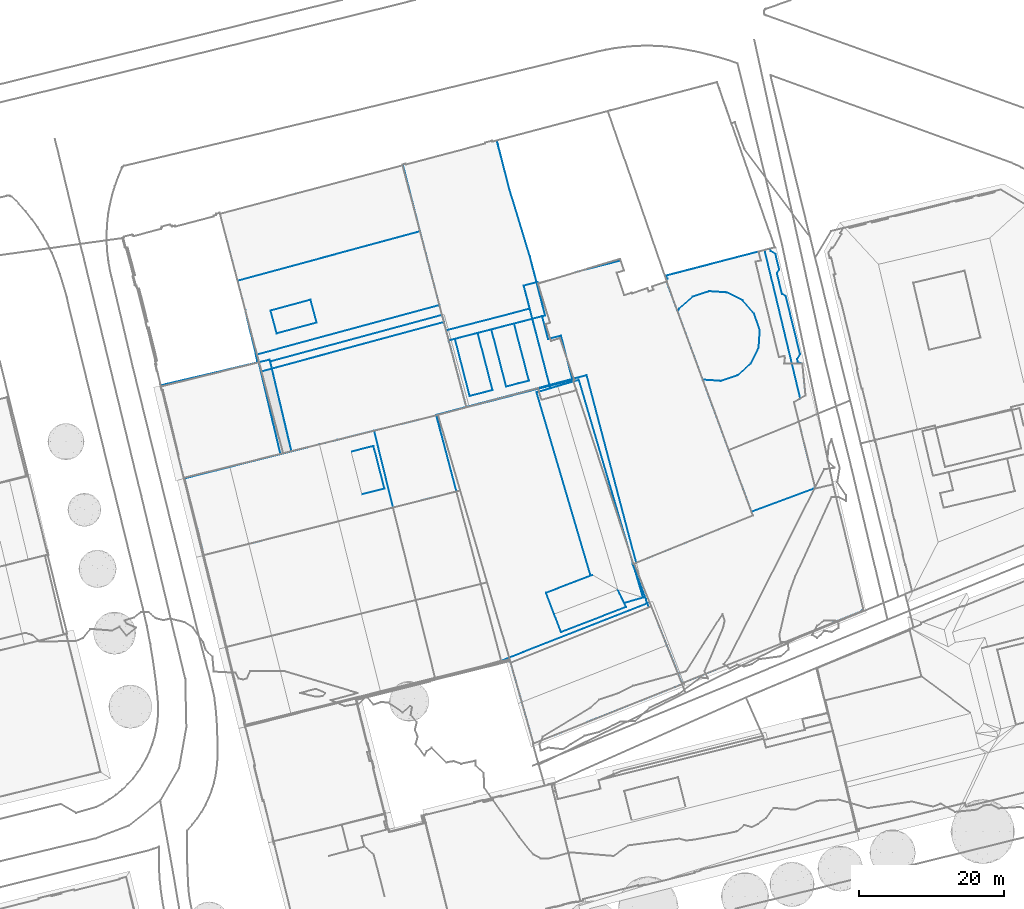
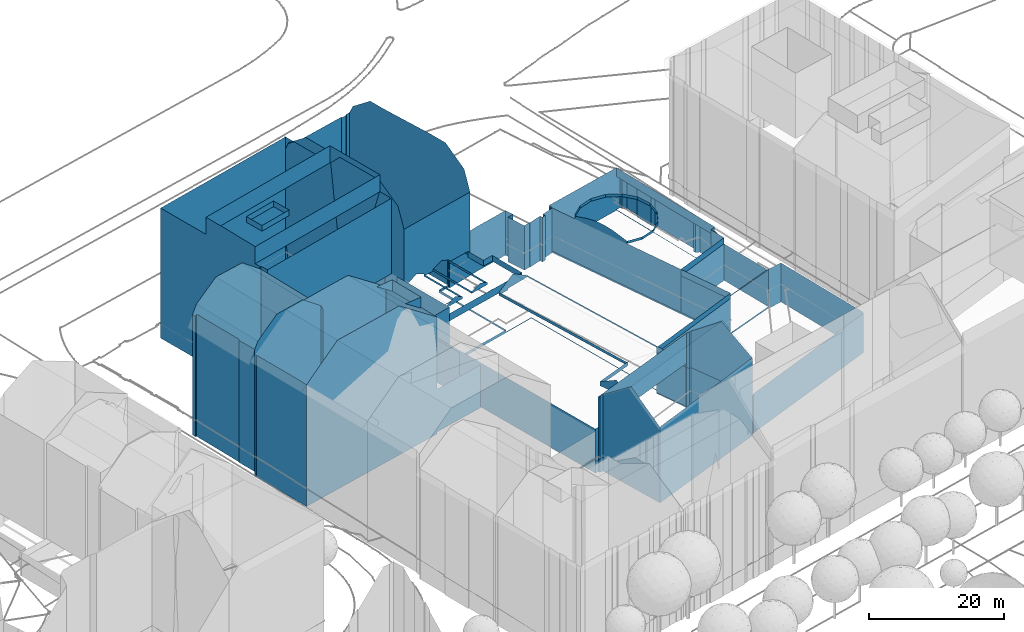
# Not in any storey, part 54 of 494: 6 walls.
"""IFC2X3 model written with IfcOpenShell, lengths in metres."""

from ifc_helpers import new_model, si_unit, frame, origin_with_axes, place, context, subcontext, project, faceted_brep, element, save


model = new_model("IFC2X3")

# Units and contexts
model_context = context("Model", 3, precision=1e-05, world=origin_with_axes())
body_context = subcontext(model_context, "Body", "Model", "MODEL_VIEW")
ifc_project = project(units=[si_unit("AREAUNIT", "SQUARE_METRE"), si_unit("LENGTHUNIT", "METRE")], contexts=[model_context])

# Walls
wall_1_placement = place(None, frame((138.3257320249, 434.5047160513, 538.8886), z_axis=(0.0, 0.0, 1.0), x_axis=(1.0, 0.0, 0.0)))
element("IfcWall", 1, at=wall_1_placement, Name="Wall 0", context=body_context, shape_type="Brep", body=[
    faceted_brep([(16.518000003, -9.4560999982, 23.2408), (12.825000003, -10.3867000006, 0.0), (16.518000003, -9.4560999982, 0.0), (13.5280000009, 3.1963, 23.2408), (13.5280000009, 3.1963, 0.0), (9.8220000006, 2.3213, 26.2215), (9.8220000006, 2.3213, 0.0), (12.825000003, -10.3867000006, 26.2215), (7.6590000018, -11.6904000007, 26.2215), (4.6380000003, 1.0956999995, 26.2215), (4.6380000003, 1.0956999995, 0.0), (3.8420000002, -12.6532999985, 23.2408), (7.6590000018, -11.6904000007, 0.0), (0.807, 0.1914000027, 23.2408), (0.807, 0.1914000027, 0.0), (0.1640000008, -0.6611000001, 0.0), (0.1640000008, -0.6611000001, 21.6909), (0.0, 0.0, 21.6769), (0.0, 0.0, 0.0), (0.3480000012, -0.615199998, 22.0489), (0.3480000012, -0.615199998, 0.0), (2.4940000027, -9.5020000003, 22.1329), (2.4940000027, -9.5020000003, 0.0), (2.4230000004, -9.5194999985, 0.0), (2.4231000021, -9.5196000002, 21.9949), (3.2200000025, -12.7372999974, 22.0639), (3.2370000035, -12.8046999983, 0.0), (3.2370000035, -12.8046999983, 22.0639), (3.8420000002, -12.6532999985, 0.0)], [[[0, 1, 2]], [[3, 0, 4]], [[5, 3, 6]], [[7, 8, 1]], [[9, 5, 10]], [[8, 11, 12]], [[13, 10, 14]], [[15, 16, 17]], [[17, 18, 15]], [[16, 15, 19]], [[19, 15, 20]], [[19, 20, 21]], [[22, 23, 21]], [[21, 23, 24]], [[25, 24, 26]], [[26, 24, 23]], [[26, 27, 25]], [[11, 27, 28]], [[17, 14, 18]], [[14, 17, 13]], [[7, 1, 0]], [[0, 2, 4]], [[3, 4, 6]], [[8, 12, 1]], [[5, 6, 10]], [[11, 28, 12]], [[9, 10, 13]], [[21, 20, 22]], [[27, 26, 28]]]),
])
wall_2_placement = place(None, frame((146.5207320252, 458.1258160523, 539.1716), z_axis=(0.0, 0.0, 1.0), x_axis=(1.0, 0.0, 0.0)))
element("IfcWall", 2, at=wall_2_placement, Name="Wall 0", context=body_context, shape_type="Brep", body=[
    faceted_brep([(7.818, -16.4530999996, 27.5443), (6.9640000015, -13.3027999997, 27.5443), (7.818, -16.4530999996, 26.5324), (13.3110000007, -14.9638999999, 27.5443), (13.3110000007, -14.9638999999, 26.5324), (12.4570000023, -11.8145000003, 27.5443), (12.4570000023, -11.8145000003, 26.5324), (6.9640000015, -13.3027999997, 26.5324), (27.5290000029, -2.4023999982, 26.5324), (30.2070000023, -12.5498000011, 26.5324), (27.5430000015, -2.3984999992, 23.4627), (27.5290000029, -2.4023999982, 0.041), (28.3380000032, -5.4688000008, 0.0), (30.2070000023, -12.5498000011, 23.4627), (2.4310000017, -9.2050999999, 26.5324), (2.4310000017, -9.2050999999, 23.4627), (3.4940000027, -13.2324000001, 26.5324), (3.495000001, -13.2324000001, 23.4627), (4.9450000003, -19.3993999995, 26.5324), (4.887000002, -19.0351999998, 26.5324), (4.9450000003, -19.3993999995, 23.4627), (25.1030000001, 6.7899999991, 23.4627), (25.1620000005, 6.8055999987, 23.4627), (25.1030000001, 6.7899999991, 0.0), (25.137000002, 6.6611000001, 23.4627), (25.137000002, 6.6611000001, 0.0), (0.0, 0.0, 23.4628), (0.0, 0.0, 0.0), (3.4940000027, -13.2324000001, 0.041), (3.495000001, -13.2324000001, 0.0), (4.9539999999, -19.4560999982, 23.4627), (4.9539999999, -19.4560999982, 0.0), (4.887000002, -19.0351999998, 0.0), (5.189000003, -20.4589999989, 23.4627), (5.189000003, -20.4589999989, 0.0), (5.3330000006, -20.4248000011, 22.9578), (5.3910000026, -20.4120999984, 23.4627), (5.3330000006, -20.4248000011, 0.0), (5.7270000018, -21.6865000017, 23.4627), (5.3910000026, -20.4111000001, 22.8278), (5.7270000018, -21.6865000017, 22.7538), (30.8230000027, -14.8828000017, 9.859), (7.1530000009, -21.2987999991, 19.5231), (7.1530000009, -21.2987999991, 9.859), (30.8230000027, -14.8828000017, 23.4627), (30.0260000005, -27.6796999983, 9.859), (9.8399999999, -32.6708999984, 9.859), (30.0260000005, -27.6796999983, -0.206), (33.9230000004, -26.629900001, 9.859), (33.9230000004, -26.629900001, -0.206), (6.9210000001, -20.317400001, 0.0001), (30.5660000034, -13.9092000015, 0.0), (6.9210000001, -20.317400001, -0.2059), (8.3230000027, -33.0771999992, 22.9578), (8.3230000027, -33.0771999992, -0.283), (5.3330000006, -20.4248000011, -0.283), (9.8440000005, -32.6875, 19.5231), (9.8440000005, -32.6875, -0.283), (6.8610000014, -20.0645000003, 0.0), (6.8610000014, -20.0645000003, -0.283), (9.8399999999, -32.6708999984, -0.206), (5.3910000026, -20.4120999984, 0.0), (4.0580000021, -15.6338, 26.5324), (4.0580000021, -15.6338, 23.4627), (4.0580000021, -15.6338, 0.0), (30.2070000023, -12.5498000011, 0.0409), (30.5660000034, -13.9092000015, -0.206), (25.3410000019, 6.1123000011, 0.0), (25.1620000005, 6.8055999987, 0.0), (25.3410000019, 6.1123000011, 23.4627), (26.2660000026, 2.5370999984, 0.0), (26.2660000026, 2.5370999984, 23.4627)], [[[0, 1, 2]], [[3, 0, 4]], [[5, 3, 6]], [[1, 5, 7]], [[8, 9, 10]], [[11, 10, 12]], [[13, 12, 10]], [[14, 8, 15]], [[16, 14, 17]], [[18, 19, 20]], [[9, 20, 13]], [[21, 22, 23]], [[24, 21, 25]], [[26, 24, 27]], [[28, 17, 15]], [[29, 28, 27]], [[15, 26, 27]], [[15, 27, 28]], [[30, 20, 31]], [[31, 20, 32]], [[19, 32, 20]], [[33, 30, 34]], [[35, 36, 33]], [[35, 34, 37]], [[38, 39, 40]], [[41, 42, 43]], [[42, 41, 44]], [[44, 40, 42]], [[40, 44, 38]], [[45, 46, 47]], [[48, 45, 49]], [[50, 51, 52]], [[53, 37, 54]], [[37, 55, 54]], [[56, 54, 57]], [[36, 35, 39]], [[58, 52, 59]], [[52, 58, 50]], [[59, 52, 57]], [[42, 56, 46]], [[46, 57, 60]], [[57, 46, 56]], [[43, 42, 46]], [[55, 37, 61]], [[61, 58, 59]], [[61, 59, 55]], [[62, 16, 63]], [[63, 28, 64]], [[19, 63, 32]], [[65, 51, 12]], [[65, 13, 41]], [[41, 51, 65]], [[41, 49, 51]], [[49, 41, 48]], [[51, 49, 66]], [[41, 13, 44]], [[67, 68, 69]], [[67, 69, 70]], [[71, 10, 11]], [[71, 11, 70]], [[1, 7, 2]], [[0, 2, 4]], [[3, 4, 6]], [[5, 6, 7]], [[9, 13, 10]], [[65, 12, 13]], [[8, 10, 15]], [[14, 15, 17]], [[18, 20, 9]], [[22, 68, 23]], [[21, 23, 25]], [[24, 25, 27]], [[28, 29, 64]], [[30, 31, 34]], [[33, 34, 35]], [[36, 39, 38]], [[46, 60, 47]], [[45, 47, 49]], [[51, 66, 52]], [[35, 37, 53]], [[53, 54, 56]], [[52, 60, 57]], [[16, 17, 63]], [[17, 28, 63]], [[62, 63, 19]], [[63, 64, 32]], [[68, 22, 69]], [[69, 71, 70]]]),
])
wall_3_placement = place(None, frame((171.6827320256, 464.931416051, 544.4901), z_axis=(0.0, 0.0, 1.0), x_axis=(1.0, 0.0, 0.0)))
element("IfcWall", 3, at=wall_3_placement, Name="Wall 0", context=body_context, shape_type="Brep", body=[
    faceted_brep([(25.3049999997, -29.0145999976, -5.7695), (32.1319999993, -54.8358999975, -5.7696), (25.3049999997, -29.0145999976, -5.9495), (4.6040000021, -34.4872999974, 2.0357), (8.75, -33.3915999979, 2.0357), (8.75, -33.3915999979, -5.4106), (4.6040000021, -34.4872999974, -5.9495), (20.193, -30.3662, -5.7695), (20.193, -30.3662, -5.4106), (14.1380000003, -68.1405999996, 2.0357), (13.5439999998, -68.297799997, 2.0357), (14.1380000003, -68.1405999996, -5.9496), (33.4499999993, -59.8192999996, 2.0357), (33.6090000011, -60.4188999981, 2.0357), (33.4499999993, -59.8192999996, -5.9496), (14.7910000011, -68.3524999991, 7.8321), (14.2369999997, -68.4891999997, 7.7761), (14.7910000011, -68.3524999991, 4.3825), (14.7910000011, -68.3524999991, 0.9328), (14.2369999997, -68.4891999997, 4.3265), (14.7910000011, -68.3524999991, -5.9656), (14.2369999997, -68.4891999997, -5.9656), (34.2039999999, -60.8250999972, 7.8971), (34.2039999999, -60.8250999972, 0.9648), (33.8800000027, -60.9549999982, 7.8991), (34.2039999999, -60.8250999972, -2.5009), (34.2039999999, -60.8250999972, -5.9656), (33.8800000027, -60.9549999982, -5.9656), (33.6680000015, -60.3954999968, 7.4562), (33.6680000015, -60.3954999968, -5.9656), (19.699000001, -58.9579999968, 2.0357), (19.699000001, -58.9579999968, 2.7386), (25.8440000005, -56.5965999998, 2.5666), (26.1090000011, -56.495099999, 2.7386), (25.8440000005, -56.5965999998, 2.0357), (30.7530000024, -60.8993999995, 2.7386), (21.7699999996, -64.3495999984, 2.7386), (30.7530000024, -60.8993999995, 2.0357), (30.4890000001, -60.3671000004, 2.5666), (29.568, -58.5086999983, 4.4095), (30.4890000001, -60.3671000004, 2.0357), (24.2270000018, -29.6512999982, 2.5667), (31.7090000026, -55.0077999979, 2.2927), (24.2270000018, -29.6512999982, 2.2927), (31.9940000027, -55.9725999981, 2.5666), (33.0670000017, -59.6063999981, 2.0357), (31.9940000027, -55.9725999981, 2.0357), (33.0670000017, -59.6063999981, 2.5666), (18.4000000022, -31.3719999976, 2.5667), (21.7800000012, -23.5692999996, 3.3656), (23.3570000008, -29.6620999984, 3.3656), (21.7800000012, -23.5692999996, 2.2927), (19.9979999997, -24.0301999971, 3.3656), (19.9979999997, -24.0301999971, 2.2927), (19.1810000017, -20.9041999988, 3.3656), (19.1810000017, -20.9041999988, 2.2927), (5.9640000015, -22.8387999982, -5.2746), (17.4739999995, -19.8592999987, -5.2746), (5.9640000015, -22.8387999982, -5.4105), (14.6960000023, -3.5155999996, 20.167), (17.4869999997, -12.6708000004, 20.167), (14.6960000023, -3.5155999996, -5.2745), (14.0340000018, -0.9569999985, 20.167), (14.0340000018, -0.9569999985, -5.2745), (14.0250000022, -0.9237999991, 20.167), (14.0250000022, -0.9237999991, -5.2745), (12.2550000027, 3.2442000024, -5.2745), (12.2550000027, 3.2442000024, 15.6715), (12.2910000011, 3.1182000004, -5.2745), (11.3139999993, 3.0020000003, -5.2745), (11.3139999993, 3.0020000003, 15.6675), (11.3489999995, 2.8692000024, -5.2745), (11.3489999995, 2.8692000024, 15.9664), (0.4519999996, -0.0185000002, 16.1084), (0.4519999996, -0.0185000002, -5.2745), (0.4180999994, 0.1114000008, -5.2745), (0.4180000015, 0.1114000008, 15.8165), (0.0, 0.0, 5.2745), (0.1770000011, 0.0469000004, 15.8195), (0.0, 0.0, 0.0), (0.0, 0.0001000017, -5.2745), (19.5910000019, -20.7987999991, 13.8566), (15.3159999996, -21.9051999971, 3.7316), (13.8949999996, -22.2723999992, 4.4195), (8.9189999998, -23.5604999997, 4.5115), (12.194000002, -22.7137999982, 3.7316), (6.3320000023, -24.2303999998, 13.8566), (19.5910000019, -20.7987999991, 2.2927), (15.3159999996, -21.9051999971, 3.3656), (10.313000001, -23.2010999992, 3.7316), (7.1720000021, -24.0135999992, 3.7316), (6.3320000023, -24.2303999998, 3.3656), (12.194000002, -22.7137999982, 3.3656), (10.313000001, -23.2010999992, 3.3656), (7.1720000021, -24.0135999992, 3.3656), (18.6300000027, -16.4188999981, 2.2927), (24.2190000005, -14.7264999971, 2.2927), (18.6300000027, -16.4188999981, -5.7695), (18.5610000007, -16.1912999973, 2.2927), (18.5610000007, -16.1912999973, -5.7695), (34.3350000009, -16.8084999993, 2.2927), (36.3110000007, -16.1248999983, 2.2927), (34.3350000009, -16.8084999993, -5.7695), (34.4930000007, -17.2625999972, 2.2927), (34.4930000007, -17.2625999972, -5.7695), (33.8560000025, -17.4881999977, 2.2927), (33.8560000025, -17.4881999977, -5.7695), (33.6999999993, -17.0350999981, 2.2927), (33.6999999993, -17.0350999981, -5.7695), (31.5340000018, -17.7567999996, 2.2927), (31.5340000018, -17.7567999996, -5.7695), (31.5030000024, -17.6629999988, 2.2927), (31.5030000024, -17.6629999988, -5.7695), (30.4830000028, -18.0086999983, 2.2927), (30.4830000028, -18.0086999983, -5.7695), (29.4389999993, -14.9199000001, 2.2927), (29.4389999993, -14.9199000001, -5.7695), (30.4539999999, -14.6063999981, 2.2927), (30.4539999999, -14.6063999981, -5.7695), (29.9849999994, -13.2342999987, 2.2927), (29.9849999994, -13.2342999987, -5.7695), (24.2190000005, -14.7264999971, -5.7695), (16.6520000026, -16.6854999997, -5.7695), (16.6520000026, -16.6854999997, -5.2746), (18.4090000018, -16.2303999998, -5.2746), (18.4090000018, -16.2303999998, 2.2927), (12.3470000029, -31.0594999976, 3.7316), (9.2070000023, -31.8729999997, 3.3656), (9.2070000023, -31.8729999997, 3.7316), (17.3500000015, -29.7645999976, 3.7316), (17.3500000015, -29.7645999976, 3.3656), (14.2280000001, -30.5722000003, 3.3656), (14.2280000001, -30.5722000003, 3.7316), (20.2210000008, -30.4725999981, 2.2927), (23.3570000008, -29.6620999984, 2.2927), (8.762000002, -33.4373999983, 3.3656), (8.762000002, -33.4373999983, 2.0357), (20.2210000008, -30.4725999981, 2.0357), (17.4739999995, -19.8592999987, -5.4106), (20.3080000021, -30.8084999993, 2.2927), (20.3080000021, -30.8084999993, 2.0357), (31.6400000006, -55.0361000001, -5.9496), (31.6400000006, -55.0361000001, 2.6116), (10.7540000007, -57.7459999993, 2.0357), (10.7540000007, -57.7459999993, -5.9495), (7.3910000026, -45.0252999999, 2.0357), (7.3910000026, -45.0252999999, -5.9495), (38.4739999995, -71.5223999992, -5.9656), (38.4739999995, -71.5223999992, 8.0841), (37.4580000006, -71.9287, -5.9656), (37.4580000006, -71.9287, 8.0801), (17.9940000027, -79.7010999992, 7.721), (17.9940000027, -79.7010999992, -5.9657), (36.2930000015, -66.0594999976, 12.0707), (36.3260000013, -66.1415999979, 12.1367), (36.3260000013, -66.1415999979, -5.9656), (36.2930000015, -66.0594999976, -5.9656), (16.4210000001, -74.1268999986, -5.9656), (16.3780000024, -73.9764999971, -5.9656), (16.4210000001, -74.1268999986, 12.0287), (16.3780000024, -73.9764999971, 12.1367), (14.1380000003, -68.1405999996, 7.5092), (14.1190000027, -68.0711999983, 7.4562), (14.1190000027, -68.0711999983, 2.0357), (14.1190000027, -68.0711999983, -5.9656), (14.1190000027, -68.0711999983, -5.9496), (33.6090000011, -60.4188999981, -5.9495), (21.7699999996, -64.3495999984, 2.0357), (20.818, -61.870099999, 2.0357), (20.818, -61.870099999, 4.4095), (48.182, -48.302699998, 2.2927), (48.182, -48.302699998, -5.7696), (32.1319999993, -54.8358999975, -5.9496), (31.7090000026, -55.0077999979, 2.5666), (21.3060000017, -30.5135999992, 4.4095), (18.4000000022, -31.3719999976, 2.0357), (19.2770000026, -19.5848999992, 17.3803), (18.2939999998, -15.7879999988, 20.167), (19.2770000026, -19.5848999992, 2.2927), (17.4869999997, -12.6708000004, -5.2746), (12.9360000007, 3.2901000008, 15.9454), (12.2910000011, 3.1182000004, 15.9564), (12.6440000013, 3.2120000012, -5.2745), (12.9360000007, 3.2901000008, -5.2745), (0.1790000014, -0.6932999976, 17.3803), (0.0, 0.0001000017, 15.8225), (1.1040000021, -4.2685000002, 20.167), (3.1779999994, -12.2821999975, 20.167), (0.0, 0.0, 10.548), (0.1790000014, -0.6932999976, -5.2745), (1.1040000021, -4.2685000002, -5.2745), (3.1779999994, -12.2821999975, -5.2745), (13.1000000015, 2.6513999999, -5.2745), (13.0840000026, 2.7138999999, -5.2745), (13.1000000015, 2.6513999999, 17.3803), (37.0789999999, -18.2079999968, 2.2927), (36.3110000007, -16.1248999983, -5.7695), (37.0789999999, -18.2079999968, -5.7695), (12.3470000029, -31.0594999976, 3.3656), (10.9530000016, -31.4208000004, 4.5115), (15.9299999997, -30.1327999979, 3.3656), (15.9299999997, -30.1327999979, 4.4195), (5.0109999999, -19.2254999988, 20.167), (5.0109999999, -19.2254999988, -5.2746), (6.012000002, -23.0185000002, 17.3803), (13.5439999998, -68.297799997, -5.9496)], [[[0, 1, 2]], [[3, 4, 5]], [[6, 5, 7]], [[5, 6, 3]], [[8, 7, 5]], [[0, 2, 7]], [[7, 2, 6]], [[9, 10, 11]], [[12, 13, 14]], [[15, 16, 17]], [[18, 19, 20]], [[19, 21, 20]], [[22, 23, 24]], [[25, 26, 24]], [[24, 26, 27]], [[28, 24, 29]], [[29, 24, 27]], [[30, 31, 32]], [[33, 32, 31]], [[32, 34, 30]], [[35, 36, 37]], [[38, 39, 35]], [[38, 37, 40]], [[37, 38, 35]], [[41, 42, 43]], [[44, 45, 46]], [[47, 38, 45]], [[32, 48, 34]], [[49, 50, 51]], [[52, 49, 53]], [[54, 52, 55]], [[56, 57, 58]], [[59, 60, 61]], [[62, 59, 63]], [[64, 62, 65]], [[66, 67, 68]], [[69, 70, 67]], [[67, 66, 69]], [[71, 72, 69]], [[72, 70, 69]], [[73, 72, 74]], [[72, 71, 74]], [[75, 76, 73]], [[73, 74, 75]], [[77, 78, 79]], [[80, 79, 78]], [[78, 75, 80]], [[81, 82, 54]], [[82, 81, 83]], [[84, 85, 83]], [[83, 81, 86]], [[87, 54, 55]], [[54, 87, 81]], [[54, 82, 88]], [[89, 85, 84]], [[90, 86, 91]], [[86, 90, 84]], [[89, 92, 85]], [[92, 89, 93]], [[91, 94, 90]], [[84, 83, 86]], [[95, 96, 97]], [[98, 95, 99]], [[100, 101, 102]], [[103, 100, 104]], [[105, 103, 106]], [[107, 105, 108]], [[109, 107, 110]], [[111, 109, 112]], [[113, 111, 114]], [[115, 113, 116]], [[117, 115, 118]], [[119, 117, 120]], [[96, 119, 121]], [[122, 123, 124]], [[124, 98, 99]], [[98, 124, 125]], [[124, 99, 122]], [[126, 93, 89]], [[127, 128, 94]], [[129, 130, 82]], [[131, 132, 92]], [[50, 133, 134]], [[133, 50, 135]], [[133, 136, 137]], [[136, 133, 135]], [[138, 7, 8]], [[123, 122, 138]], [[123, 138, 57]], [[139, 133, 140]], [[141, 142, 46]], [[46, 142, 44]], [[12, 14, 46]], [[143, 144, 10]], [[145, 146, 143]], [[3, 6, 145]], [[147, 148, 149]], [[149, 148, 150]], [[149, 151, 152]], [[151, 149, 150]], [[153, 154, 23]], [[22, 153, 23]], [[154, 148, 23]], [[148, 147, 155]], [[148, 155, 156]], [[25, 156, 26]], [[156, 25, 148]], [[148, 25, 23]], [[152, 151, 157]], [[157, 18, 158]], [[20, 158, 18]], [[18, 157, 151]], [[159, 160, 15]], [[159, 15, 17]], [[151, 17, 18]], [[151, 159, 17]], [[19, 16, 161]], [[19, 161, 162]], [[19, 163, 9]], [[163, 19, 162]], [[19, 9, 21]], [[9, 11, 21]], [[21, 11, 164]], [[164, 11, 165]], [[165, 166, 164]], [[162, 28, 163]], [[163, 28, 13]], [[13, 28, 166]], [[164, 166, 29]], [[167, 36, 168]], [[168, 36, 169]], [[168, 31, 30]], [[31, 168, 169]], [[170, 1, 171]], [[172, 1, 141]], [[170, 42, 1]], [[173, 142, 42]], [[141, 42, 142]], [[42, 141, 1]], [[174, 139, 48]], [[140, 175, 48]], [[48, 139, 140]], [[43, 139, 174]], [[43, 174, 41]], [[176, 81, 177]], [[177, 81, 60]], [[125, 60, 178]], [[60, 125, 179]], [[60, 81, 178]], [[87, 178, 81]], [[179, 125, 124]], [[180, 68, 181]], [[182, 68, 180]], [[182, 180, 183]], [[184, 185, 186]], [[187, 186, 188]], [[188, 186, 185]], [[187, 188, 77]], [[79, 80, 189]], [[77, 79, 190]], [[190, 191, 187]], [[190, 79, 189]], [[190, 187, 77]], [[192, 193, 180]], [[65, 192, 180]], [[193, 183, 180]], [[180, 194, 64]], [[64, 65, 180]], [[101, 195, 196]], [[171, 197, 170]], [[127, 198, 199]], [[199, 198, 126]], [[128, 127, 199]], [[130, 129, 200]], [[200, 129, 201]], [[132, 131, 200]], [[132, 200, 201]], [[91, 86, 187]], [[135, 91, 4]], [[4, 136, 135]], [[5, 4, 91]], [[91, 56, 5]], [[202, 187, 86]], [[187, 191, 91]], [[58, 5, 56]], [[203, 91, 191]], [[91, 203, 56]], [[86, 204, 202]], [[1, 172, 2]], [[10, 205, 11]], [[13, 166, 14]], [[16, 18, 17]], [[16, 19, 18]], [[23, 25, 24]], [[36, 167, 37]], [[173, 42, 41]], [[47, 45, 44]], [[38, 40, 45]], [[48, 175, 34]], [[50, 134, 51]], [[49, 51, 53]], [[52, 53, 55]], [[57, 138, 58]], [[60, 179, 61]], [[59, 61, 63]], [[62, 63, 65]], [[68, 67, 181]], [[185, 78, 188]], [[77, 188, 78]], [[76, 75, 78]], [[96, 121, 97]], [[95, 97, 99]], [[101, 196, 102]], [[100, 102, 104]], [[103, 104, 106]], [[105, 106, 108]], [[107, 108, 110]], [[109, 110, 112]], [[111, 112, 114]], [[113, 114, 116]], [[115, 116, 118]], [[117, 118, 120]], [[119, 120, 121]], [[198, 93, 126]], [[128, 90, 94]], [[130, 88, 82]], [[132, 85, 92]], [[122, 7, 138]], [[133, 137, 140]], [[14, 141, 46]], [[144, 205, 10]], [[146, 144, 143]], [[6, 146, 145]], [[28, 29, 166]], [[195, 197, 196]], [[197, 195, 170]]]),
])
wall_4_placement = place(None, frame((207.923732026, 449.1404160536, 539.0145), z_axis=(0.0, 0.0, 1.0), x_axis=(1.0, 0.0, 0.0)))
element("IfcWall", 4, at=wall_4_placement, Name="Wall 0", context=body_context, shape_type="Brep", body=[
    faceted_brep([(12.1040000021, -4.7275000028, 8.2422), (12.8819999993, -7.0273000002, 7.7193), (12.1040000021, -4.7275000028, 7.7193), (10.504999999, -2.8993999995, 8.2422), (10.504999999, -2.8993999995, 7.7233), (8.3289999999, -1.8232000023, 8.2423), (8.3289999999, -1.8232000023, 7.7323), (5.9059999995, -1.6621000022, 8.2423), (5.9059999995, -1.6621000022, 7.7433), (3.6060000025, -2.4384000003, 8.2423), (3.6060000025, -2.4384000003, 7.7553), (1.7789999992, -4.0381000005, 8.2423), (1.7789999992, -4.0381000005, 7.7663), (1.5820000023, -4.4345000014, 8.2423), (1.5820000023, -4.4345000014, 7.7683), (5.0930000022, -13.8408000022, 8.2422), (5.0430000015, -13.8154000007, 7.7683), (5.0930000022, -13.8408000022, 7.7683), (7.5159999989, -14.0029000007, 8.2422), (7.5159999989, -14.0029000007, 7.7573), (9.8159999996, -13.2256000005, 8.2422), (9.8159999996, -13.2256000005, 7.7453), (11.6429999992, -11.6269000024, 8.2422), (11.6429999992, -11.6269000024, 7.7333), (12.7199999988, -9.451100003, 8.2422), (12.7199999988, -9.451100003, 7.7243), (12.8819999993, -7.0273000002, 8.2422), (0.0219999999, 0.4921999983, 0.0), (0.182, 0.0527999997, 0.0), (0.182, 0.0527999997, 7.7673), (0.0219999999, 0.4921999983, 5.8255), (0.0219999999, 0.4921999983, 7.7673), (0.0219999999, 0.4921999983, 2.2968), (0.0, 0.0, 0.0), (0.0, 0.0, 7.7683), (0.1110000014, -0.3192999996, 7.7683), (0.1110000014, -0.3192999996, 0.0), (0.0700000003, -0.3340000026, 7.7683), (0.0700000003, -0.3340000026, 4.8556), (18.2659999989, -19.5996000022, 7.7163), (8.6290000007, -23.5361000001, 0.0), (18.2659999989, -19.5996000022, 0.0), (17.5980000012, -16.9101000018, 7.7143), (17.5980000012, -16.9101000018, 0.0), (13.5520000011, 4.0108000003, 7.6973), (18.4649999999, -16.4189000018, 6.0944), (13.5520000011, 4.0108000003, 6.0945), (18.75, -11.6445000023, 6.0944), (19.1909999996, -16.0078000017, 6.0944), (18.75, -11.6445000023, 0.127), (18.137000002, -11.4658000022, 6.0944), (18.137000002, -11.4658000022, 0.127), (18.0260000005, -10.9834000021, 6.0944), (18.0260000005, -10.9834000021, 0.127), (18.4240000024, -10.3213, 6.0944), (18.4240000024, -10.3213, 0.127), (16.4690000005, -2.3525000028, 6.0944), (16.4690000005, -2.3525000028, 0.127), (15.9460000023, -2.0516999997, 6.0944), (15.9460000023, -2.0516999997, 0.127), (15.2420000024, 0.8213, 6.0945), (15.2420000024, 0.8213, 0.127), (15.561999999, 1.3359999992, 6.0945), (15.561999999, 1.3359999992, 0.127), (15.0500000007, 3.4638999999, 6.0945), (15.0500000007, 3.4638999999, 0.127), (14.3790000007, 3.861399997, 6.0945), (14.3790000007, 3.861399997, 0.127), (14.2890000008, 4.2021999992, 6.0945), (14.2890000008, 4.2021999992, 0.127), (13.5520000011, 4.0108000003, 0.1269), (18.4649999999, -16.4189000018, 0.127), (13.5520000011, 4.0108000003, 0.0), (4.0920000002, -11.2373000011, 8.9492), (3.5150000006, -9.6728000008, 9.1722), (3.0140000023, -8.3144000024, 9.1572), (8.6290000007, -23.5361000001, 7.7683), (5.0430000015, -13.8154000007, 8.2422), (0.8379999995, -2.4169999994, 0.0), (2.4079999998, -6.6738000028, 8.8902), (0.8379999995, -2.4169999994, 7.7683), (0.0700000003, -0.3340000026, 0.0), (19.1909999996, -16.0078000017, 0.127), (18.4649999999, -16.4189000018, 0.0), (18.4649999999, -16.4189000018, 7.7093), (0.3940000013, 0.5888999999, 0.0), (0.3940000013, 0.5888999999, 7.7653)], [[[0, 1, 2]], [[3, 0, 4]], [[5, 3, 6]], [[7, 5, 8]], [[9, 7, 10]], [[11, 9, 12]], [[13, 11, 14]], [[15, 16, 17]], [[18, 17, 19]], [[20, 19, 21]], [[22, 21, 23]], [[24, 23, 25]], [[26, 25, 1]], [[27, 28, 29]], [[30, 29, 31]], [[32, 29, 30]], [[28, 33, 34]], [[34, 33, 35]], [[35, 33, 36]], [[37, 35, 38]], [[39, 40, 41]], [[42, 41, 43]], [[44, 45, 46]], [[47, 48, 49]], [[50, 47, 51]], [[52, 50, 53]], [[54, 52, 55]], [[56, 54, 57]], [[58, 56, 59]], [[60, 58, 61]], [[62, 60, 63]], [[64, 62, 65]], [[66, 64, 67]], [[68, 66, 69]], [[70, 71, 72]], [[16, 73, 74]], [[14, 16, 74]], [[75, 14, 74]], [[40, 76, 16]], [[16, 77, 73]], [[78, 40, 16]], [[14, 75, 79]], [[13, 14, 79]], [[14, 80, 38]], [[38, 80, 37]], [[14, 38, 78]], [[38, 81, 78]], [[14, 78, 16]], [[48, 45, 71]], [[71, 82, 48]], [[83, 71, 43]], [[45, 43, 71]], [[43, 45, 42]], [[45, 84, 42]], [[46, 32, 30]], [[32, 85, 27]], [[70, 85, 32]], [[30, 31, 86]], [[86, 44, 46]], [[46, 70, 32]], [[72, 85, 70]], [[46, 69, 70]], [[30, 86, 46]], [[26, 1, 0]], [[0, 2, 4]], [[3, 4, 6]], [[5, 6, 8]], [[7, 8, 10]], [[9, 10, 12]], [[11, 12, 14]], [[77, 16, 15]], [[15, 17, 18]], [[18, 19, 20]], [[20, 21, 22]], [[22, 23, 24]], [[24, 25, 26]], [[27, 29, 32]], [[34, 29, 28]], [[35, 81, 38]], [[35, 36, 81]], [[76, 40, 39]], [[39, 41, 42]], [[84, 45, 44]], [[48, 82, 49]], [[47, 49, 51]], [[50, 51, 53]], [[52, 53, 55]], [[54, 55, 57]], [[56, 57, 59]], [[58, 59, 61]], [[60, 61, 63]], [[62, 63, 65]], [[64, 65, 67]], [[66, 67, 69]], [[71, 83, 72]], [[68, 69, 46]]]),
])
wall_5_placement = place(None, frame((203.3227320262, 409.8953160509, 538.7355), z_axis=(0.0, 0.0, 1.0), x_axis=(1.0, 0.0, 0.0)))
element("IfcWall", 5, at=wall_5_placement, Name="Wall 0", context=body_context, shape_type="Brep", body=[
    faceted_brep([(13.2300000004, 15.7090000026, 6.8984), (22.8669999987, 19.6455000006, 6.8984), (13.2300000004, 15.7090000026, 0.293), (0.0, 0.0, 7.0824), (16.5419999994, 6.7334000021, 7.0823), (0.0, 0.0, 0.0), (1.8099999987, -4.7831999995, 7.0823), (1.8099999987, -4.7831999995, 0.0), (1.9690000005, -5.3827999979, 7.0823), (1.9690000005, -5.3827999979, 0.0), (2.0280000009, -5.3593999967, 7.0823), (2.0280000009, -5.3593999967, 0.0), (2.2400000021, -5.9188999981, 7.0823), (2.2400000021, -5.9188999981, 0.0), (2.5639999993, -5.7890999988, 7.0823), (2.5639999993, -5.7889999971, 0.0), (6.8339999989, -16.4862999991, 7.0823), (6.8339999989, -16.4862999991, 0.0), (7.0720000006, -16.3925999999, 7.0823), (7.0720000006, -16.3925999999, 0.0), (7.0309999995, -16.2909999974, 7.0823), (7.0309999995, -16.2909999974, 0.0), (31.5199999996, -6.4589999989, 7.0823), (31.5199999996, -6.4589999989, 0.0), (31.6009999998, -6.4081999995, 7.0823), (31.6009999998, -6.4081999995, 0.0), (31.6669999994, -6.3398000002, 7.0823), (31.6669999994, -6.3398000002, 0.0), (31.7290000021, -6.1952999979, 7.0823), (31.7290000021, -6.1952999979, 0.0), (31.7300000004, -6.0682999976, 7.0823), (31.7300000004, -6.0682999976, 0.0), (27.5769999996, 10.9795000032, 7.0823), (27.5769999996, 10.9795000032, 0.0), (25.1530000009, 10.4326000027, 0.0), (25.1530000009, 10.4326000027, 7.0823), (16.3520000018, 7.2471000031, 7.0823), (25.1330000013, 10.5117000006, 7.0823), (16.3520000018, 7.2471000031, 6.8984), (16.3520000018, 7.2471000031, 0.293), (25.1330000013, 10.5117000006, 0.0), (16.3520000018, 7.2471000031, 0.0), (16.5419999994, 6.7334000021, 0.0), (25.1330000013, 10.5117000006, 6.8984), (25.1330000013, 10.5117000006, 0.293), (22.8669999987, 19.6455000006, 0.293)], [[[0, 1, 2]], [[3, 4, 5]], [[6, 3, 7]], [[8, 6, 9]], [[10, 8, 11]], [[12, 10, 13]], [[14, 12, 15]], [[16, 14, 17]], [[18, 16, 19]], [[20, 18, 21]], [[22, 20, 23]], [[24, 22, 25]], [[26, 24, 27]], [[28, 26, 29]], [[30, 28, 31]], [[32, 30, 33]], [[34, 35, 32]], [[36, 37, 38]], [[39, 40, 41]], [[4, 36, 38]], [[39, 4, 38]], [[38, 0, 39]], [[39, 41, 42]], [[1, 43, 44]], [[44, 45, 1]], [[44, 34, 40]], [[44, 43, 34]], [[35, 43, 37]], [[1, 45, 2]], [[4, 42, 5]], [[3, 5, 7]], [[6, 7, 9]], [[8, 9, 11]], [[10, 11, 13]], [[12, 13, 15]], [[14, 15, 17]], [[16, 17, 19]], [[18, 19, 21]], [[20, 21, 23]], [[22, 23, 25]], [[24, 25, 27]], [[26, 27, 29]], [[28, 29, 31]], [[30, 31, 33]], [[32, 33, 34]], [[37, 43, 38]], [[44, 40, 39]], [[42, 4, 39]], [[0, 2, 39]], [[34, 43, 35]]]),
])
wall_6_placement = place(None, frame((141.5627320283, 421.7029160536, 538.0287), z_axis=(0.0, 0.0, 1.0), x_axis=(1.0, 0.0, 0.0)))
element("IfcWall", 6, at=wall_6_placement, Name="Wall 0", context=body_context, shape_type="Brep", body=[
    faceted_brep([(27.5909999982, -1.3779000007, 23.5407), (24.4709999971, -2.1845000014, 23.9257), (27.5909999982, -1.3779000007, 21.5249), (23.0029999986, 3.691399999, 23.9397), (26.0779999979, 4.486399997, 23.6367), (26.0779999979, 4.486399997, 21.5729), (0.068, -0.2773000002, 21.8919), (0.068, -0.2773000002, 0.0), (0.1639999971, -0.2509000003, 21.9679), (0.1637999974, -0.251000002, 0.0), (0.0, 9.9998e-05, 10.9469), (0.0, 9.9998e-05, 16.4194), (0.0, 0.0, 5.4734), (0.0, 0.0, 0.0), (2.5759999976, -9.8535000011, 5.4864), (2.561999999, -9.7928999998, 21.9898), (2.3239999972, -8.7978000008, 5.4934), (2.743999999, -10.5576000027, 21.9848), (2.743999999, -10.5576000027, 16.4844), (2.743999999, -10.5576000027, 10.9829), (2.743999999, -10.5576000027, -0.0001), (2.0719999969, -7.7422000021, 22.0028), (2.0719999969, -7.7422000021, -0.0001), (2.3919999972, -9.0810000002, 21.9938), (34.737999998, 8.6875, 8.0922), (37.5109999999, -1.7968000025, 8.0922), (34.737999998, 8.6875, 0.3629), (26.1769999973, 6.5751999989, 0.3629), (28.7859999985, -4.0019000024, 0.3629), (26.1769999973, 6.5751999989, -0.0001), (26.1769999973, 6.5751999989, 21.1279), (28.7859999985, -4.0019000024, 21.1279), (26.1789999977, 6.5683999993, 8.0922), (1.2789999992, -4.629900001, 21.9869), (1.2789999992, -4.629900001, 0.0), (0.0, 0.0, 21.8929), (0.2949999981, 0.0742999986, 22.1228), (4.6199999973, 1.1620999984, 25.5745), (4.6199999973, 1.1620999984, 0.0), (6.3049999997, 1.5868999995, 0.0), (6.3049999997, 1.5868999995, 26.9194), (18.6409999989, 4.6992999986, 26.9194), (18.6409999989, 4.6992999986, -0.0001), (21.1679999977, 5.3281999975, 24.9766), (21.1679999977, 5.3281999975, -0.0001), (28.7839999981, -3.996100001, 8.0922), (27.9759999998, -4.2060000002, 21.7499), (21.2369999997, -5.9033000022, -0.0001), (28.7859999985, -4.0019000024, -0.0001), (23.0039999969, -5.4580000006, -0.0001), (22.9979999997, -5.4590000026, 25.5775), (21.2529999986, -5.8993999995, 26.9194), (8.9239999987, -9.0019000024, 26.9194), (7.7599999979, -9.2949000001, 25.9915), (5.5149999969, -9.8603000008, 24.1956), (5.5149999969, -9.8603000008, -0.0001), (37.5109999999, -1.7968000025, 0.3629)], [[[0, 1, 2]], [[3, 4, 5]], [[4, 0, 5]], [[6, 7, 8]], [[8, 7, 9]], [[10, 7, 11]], [[12, 13, 7]], [[14, 15, 16]], [[17, 15, 18]], [[19, 14, 20]], [[20, 14, 16]], [[21, 22, 23]], [[16, 22, 20]], [[24, 25, 26]], [[27, 28, 29]], [[30, 31, 32]], [[21, 33, 22]], [[34, 22, 33]], [[8, 34, 33]], [[34, 8, 9]], [[35, 36, 11]], [[10, 11, 37]], [[38, 12, 10]], [[36, 37, 11]], [[39, 37, 40]], [[41, 42, 40]], [[13, 12, 38]], [[10, 39, 38]], [[10, 37, 39]], [[41, 43, 42]], [[43, 44, 42]], [[32, 44, 43]], [[32, 43, 30]], [[24, 26, 32]], [[27, 29, 44]], [[32, 27, 44]], [[18, 45, 46]], [[46, 45, 31]], [[47, 45, 19]], [[45, 28, 25]], [[48, 28, 49]], [[49, 28, 45]], [[45, 47, 49]], [[18, 46, 50]], [[51, 52, 53]], [[54, 18, 50]], [[54, 50, 53]], [[18, 54, 17]], [[55, 47, 19]], [[19, 20, 55]], [[18, 19, 45]], [[53, 50, 51]], [[0, 2, 5]], [[6, 35, 7]], [[7, 35, 11]], [[10, 12, 7]], [[15, 23, 16]], [[23, 22, 16]], [[19, 18, 15]], [[15, 14, 19]], [[25, 56, 26]], [[28, 48, 29]], [[31, 45, 32]], [[42, 39, 40]], [[26, 27, 32]], [[28, 56, 25]]]),
])

save(model, "model.ifc")
